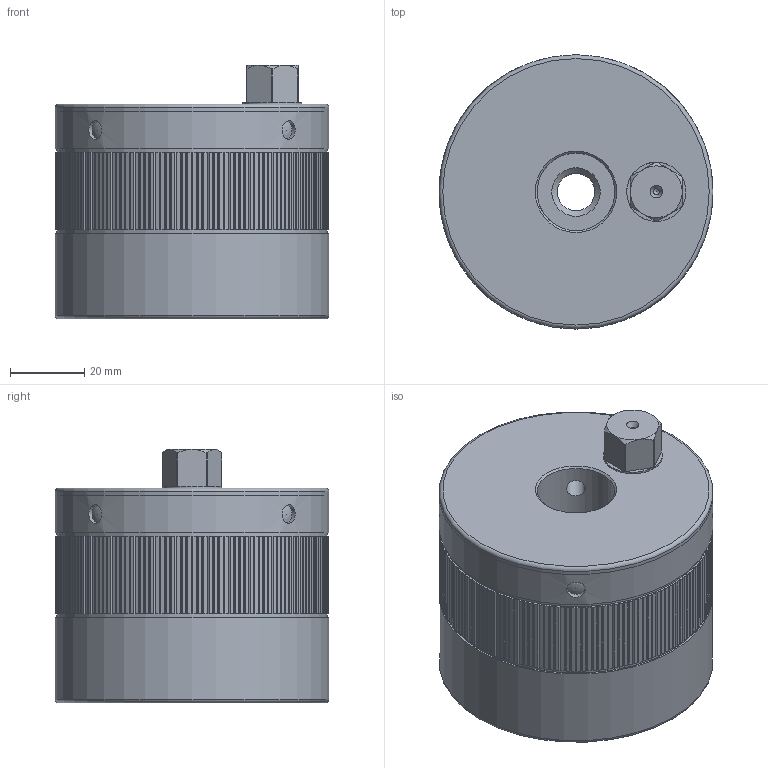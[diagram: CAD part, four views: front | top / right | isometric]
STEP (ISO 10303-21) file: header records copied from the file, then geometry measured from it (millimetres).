
FILE_DESCRIPTION(/* description */ ('Unknown','CAx-IF Rec.Pracs.---Representation and Presentation of Product Manufacturing Information (PMI)---4.0---2014-10-13','CAx-IF Rec.Pracs.---3D Tessellated Geometry---0.4---2014-09-14','2;1'),/* implementation_level */ '2;1');
FILE_NAME(/* name */ 'MDA 60_SW14_M12',/* time_stamp */ '2023-09-14T12:52:43+02:00',/* author */ ('Unknown'),/* organization */ ('Unknown'),/* preprocessor_version */ 'ST-DEVELOPER v18.102',/* originating_system */ 'Solid Edge',/* authorisation */ 'Unknown');
FILE_SCHEMA (('AP242_MANAGED_MODEL_BASED_3D_ENGINEERING_MIM_LF { 1 0 10303 442 1 1 4 }'));
Length unit declared in the file: millimetre
Products named in the file (7): 05933043; 43733042; kt101323; 46331540; 42231968; KT100075; 46432273
Assembly tree (9 placements, depth 2):
  05933043
    43733042
    kt101323
    46331540
    42231968
    KT100075  x4
    46432273
Bounding box: 74 x 74 x 68.5 mm (x, y, z)
Volume: 223678.2 mm3; surface area: 76491.4 mm2
Topology: 9 solids, 9 shells, 607 faces, 1730 edges, 1144 vertices
Faces by surface type: plane 354, cylinder 199, cone 31, torus 9, sphere 8, bspline 6
Full cylindrical faces by diameter (mm): 1.6 x2, 5 x12, 10.106 x1, 16 x2, 16.4 x1, 21 x1, 38 x3, 56.2 x1, 60.7 x1, 62 x1, 66.7 x1, 66.9 x1, 67 x3, 73 x2, 74 x3
Entity records: 19749 total; most frequent: CARTESIAN_POINT 3925, ORIENTED_EDGE 3206, DIRECTION 3182, EDGE_CURVE 1603, LINE 1142, VECTOR 1142, VERTEX_POINT 1103, AXIS2_PLACEMENT_3D 1020
